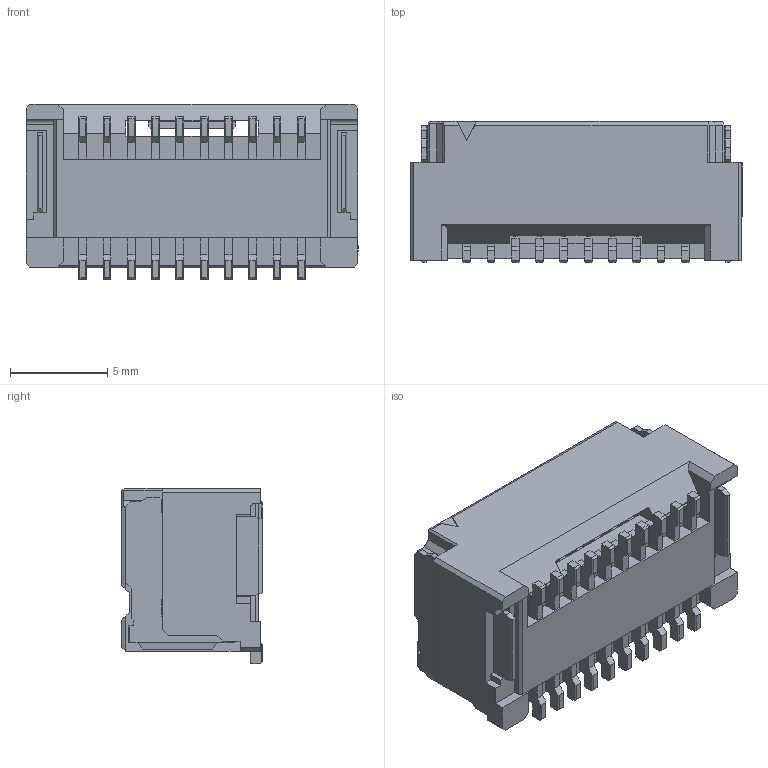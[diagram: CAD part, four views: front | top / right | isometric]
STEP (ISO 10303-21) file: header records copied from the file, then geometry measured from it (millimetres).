
FILE_DESCRIPTION((''),'2;1');
FILE_NAME('5054332071','2020-05-12T',('gga'),(''),'PRO/ENGINEER BY PARAMETRIC TECHNOLOGY CORPORATION, 2016010','PRO/ENGINEER BY PARAMETRIC TECHNOLOGY CORPORATION, 2016010','');
FILE_SCHEMA(('CONFIG_CONTROL_DESIGN'));
Length unit declared in the file: millimetre
Products named in the file (1): 5054332071
Bounding box: 17.1 x 7.25 x 9.05 mm (x, y, z)
Volume: 527.8 mm3; surface area: 1215.2 mm2
Topology: 1 solids, 1 shells, 732 faces, 2211 edges, 1476 vertices
Faces by surface type: plane 640, cylinder 74, cone 18
Entity records: 24374 total; most frequent: CARTESIAN_POINT 4430, ORIENTED_EDGE 4246, DIRECTION 3805, EDGE_CURVE 2123, VECTOR 2035, LINE 2035, VERTEX_POINT 1388, AXIS2_PLACEMENT_3D 885
